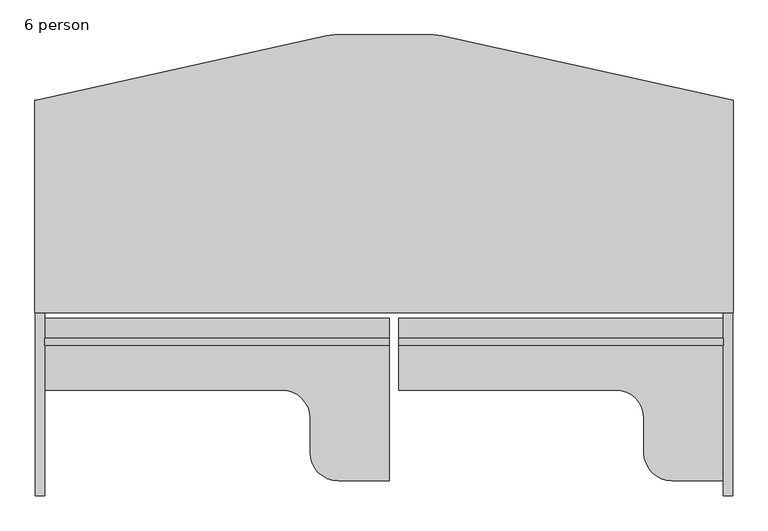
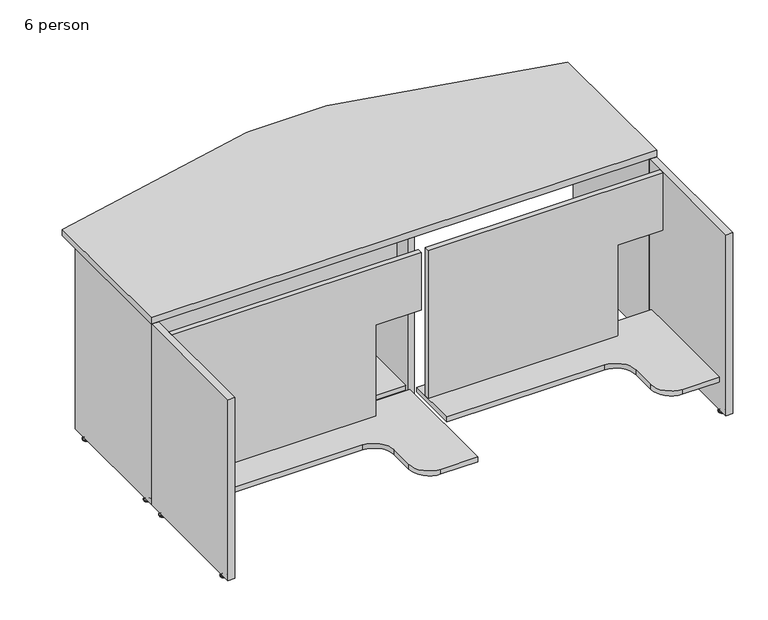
"""IFC4 building model written with IfcOpenShell, lengths in millimetres: furniture geometry, Nova Solutions - Collaboration Table - Boat_4-6 person : 6 person."""

from ifc_helpers import new_model, si_unit, point, frame, frame_2d, origin, place, context, project, spatial, polyline, circle_curve, ellipse_curve, trimmed, segment, composite_curve, outline, extrude, source, transform, mapped, element, save
from ifc_brep_helpers import plane_surface, cylinder_surface, revolved_surface, advanced_brep


def furniture_6_person_dfd8cc7e(model_context):
    return source(origin(), model_context, "Body", "SolidModel", [
        advanced_brep(
        [(916.6776506, 50.4140625, 11.1125), (910.0, 50.4140625, 11.1125), (903.3223494, 50.4140625, 11.1125), (916.6776506, 50.4140625, 9.525), (903.3223494, 50.4140625, 9.525), (921.8855135, 50.4140625, 4.7748687), (898.1144865, 50.4140625, 4.7748687), (922.7466506, 50.4140625, 3.989419), (897.2533494, 50.4140625, 3.989419), (922.7466506, 50.4140625, 3.175), (897.2533494, 50.4140625, 3.175), (921.8959119, 50.4140625, 0.0), (898.1040881, 50.4140625, 0.0), (910.0, 50.4140625, 0.0)],
        [
            (0, 1),
            (1, 2),
            (2, 0, circle_curve(frame((910.0, 50.4140625, 11.1125), z_axis=(0.0, 0.0, 1.0), x_axis=(-1.0, 0.0, 0.0)), 6.6776506)),
            (0, 2, circle_curve(frame((910.0, 50.4140625, 11.1125), z_axis=(0.0, 0.0, 1.0), x_axis=(-1.0, 0.0, 0.0)), 6.6776506)),
            (3, 0),
            (2, 4),
            (4, 3, circle_curve(frame((910.0, 50.4140625, 9.525), z_axis=(0.0, 0.0, 1.0), x_axis=(-1.0, 0.0, 0.0)), 6.6776506)),
            (3, 4, circle_curve(frame((910.0, 50.4140625, 9.525), z_axis=(0.0, 0.0, 1.0), x_axis=(-1.0, 0.0, 0.0)), 6.6776506)),
            (5, 3, circle_curve(frame((922.9320627, 50.4140625, 11.1521822), z_axis=(0.0, 1.0, 0.0), x_axis=(-1.0, 0.0, 0.0)), 6.462615)),
            (4, 6, circle_curve(frame((897.0679373, 50.4140625, 11.1521822), z_axis=(0.0, 1.0, 0.0), x_axis=(1.0, 0.0, 0.0)), 6.462615)),
            (6, 5, circle_curve(frame((910.0, 50.4140625, 4.7748687), z_axis=(0.0, 0.0, 1.0), x_axis=(-1.0, 0.0, 0.0)), 11.8855135)),
            (5, 6, circle_curve(frame((910.0, 50.4140625, 4.7748687), z_axis=(0.0, 0.0, 1.0), x_axis=(-1.0, 0.0, 0.0)), 11.8855135)),
            (7, 5, circle_curve(frame((921.7124632, 50.4140625, 3.7203591), z_axis=(0.0, -1.0, 0.0), x_axis=(-1.0, 0.0, 0.0)), 1.0686145)),
            (6, 8, circle_curve(frame((898.2875368, 50.4140625, 3.7203591), z_axis=(0.0, -1.0, 0.0), x_axis=(1.0, 0.0, 0.0)), 1.0686145)),
            (8, 7, circle_curve(frame((910.0, 50.4140625, 3.989419), z_axis=(0.0, 0.0, 1.0), x_axis=(-1.0, 0.0, 0.0)), 12.7466506)),
            (7, 8, circle_curve(frame((910.0, 50.4140625, 3.989419), z_axis=(0.0, 0.0, 1.0), x_axis=(-1.0, 0.0, 0.0)), 12.7466506)),
            (9, 7),
            (8, 10),
            (10, 9, circle_curve(frame((910.0, 50.4140625, 3.175), z_axis=(0.0, 0.0, 1.0), x_axis=(-1.0, 0.0, 0.0)), 12.7466506)),
            (9, 10, circle_curve(frame((910.0, 50.4140625, 3.175), z_axis=(0.0, 0.0, 1.0), x_axis=(-1.0, 0.0, 0.0)), 12.7466506)),
            (11, 9),
            (10, 12),
            (12, 11, circle_curve(frame((910.0, 50.4140625, 0.0), z_axis=(0.0, 0.0, 1.0), x_axis=(-1.0, 0.0, 0.0)), 11.8959119)),
            (11, 12, circle_curve(frame((910.0, 50.4140625, 0.0), z_axis=(0.0, 0.0, 1.0), x_axis=(-1.0, 0.0, 0.0)), 11.8959119)),
            (13, 11),
            (12, 13),
        ],
        [
            plane_surface(frame((910.0, 50.4140625, 11.1125), z_axis=(0.0, 0.0, 1.0), x_axis=(-1.0, 0.0, 0.0))),
            cylinder_surface(frame((910.0, 50.4140625, 43.2095994), z_axis=(0.0, 0.0, -1.0), x_axis=(-1.0, 0.0, 0.0)), 6.6776506),
            revolved_surface(trimmed(ellipse_curve(frame((897.0679373, 50.4140625, 11.1521822), z_axis=(0.0, 1.0, 0.0), x_axis=(1.0, 0.0, 0.0)), 6.462615, 6.462615), [point((903.3223494, 50.4140625, 9.525))], [point((898.1144865, 50.4140625, 4.7748687))], True, "CARTESIAN"), (910.0, 50.4140625, 43.2095994), (0.0, 0.0, -1.0)),
            revolved_surface(trimmed(ellipse_curve(frame((898.2875368, 50.4140625, 3.7203591), z_axis=(0.0, -1.0, 0.0), x_axis=(1.0, 0.0, 0.0)), 1.0686145, 1.0686145), [point((898.1144865, 50.4140625, 4.7748687))], [point((897.2533494, 50.4140625, 3.989419))], True, "CARTESIAN"), (910.0, 50.4140625, 43.2095994), (0.0, 0.0, -1.0)),
            cylinder_surface(frame((910.0, 50.4140625, 43.2095994), z_axis=(0.0, 0.0, -1.0), x_axis=(-1.0, 0.0, 0.0)), 12.7466506),
            revolved_surface(polyline([(897.2533494, 50.4140625, 3.175), (898.1040881, 50.4140625, 0.0)]), (910.0, 50.4140625, 43.2095994), (0.0, 0.0, -1.0)),
            plane_surface(frame((910.0, 50.4140625, 0.0), z_axis=(0.0, 0.0, -1.0), x_axis=(-1.0, 0.0, 0.0))),
        ],
        [
            (0, [[1, 2, 3]]),
            (0, [[-2, -1, 4]]),
            (1, [[5, -3, 6, 7]]),
            (1, [[-6, -4, -5, 8]]),
            (2, [[9, -7, 10, 11]]),
            (2, [[-10, -8, -9, 12]]),
            (3, [[13, -11, 14, 15]]),
            (3, [[-14, -12, -13, 16]]),
            (4, [[17, -15, 18, 19]]),
            (4, [[-18, -16, -17, 20]]),
            (5, [[21, -19, 22, 23]]),
            (5, [[-22, -20, -21, 24]]),
            (6, [[25, -23, 26]]),
            (6, [[-26, -24, -25]]),
        ],
    ),
        extrude(outline(polyline([(922.85, 1.4), (897.15, 1.4), (897.15, 498.0), (922.85, 498.0), (922.85, 1.4)])), frame((0.0, 0.0, 15.6), z_axis=(0.0, 0.0, 1.0), x_axis=(1.0, 0.0, 0.0)), (0.0, 0.0, 1.0), 720.7),
        extrude(outline(polyline([(145.5, -952.15), (145.5, -183.85), (507.4, -183.85), (507.4, -12.85), (736.3, -12.85), (736.3, -952.15), (145.5, -952.15)])), frame((0.0, 69.4, 0.0), z_axis=(0.0, 1.0, 0.0), x_axis=(0.0, 0.0, 1.0)), (0.0, 0.0, 1.0), 19.2),
        extrude(outline(composite_curve([segment(polyline([(-952.15, 14.1), (-952.15, 210.4), (-305.05, 210.4)]), True, "CONTINUOUS"), segment(trimmed(circle_curve(frame_2d((-305.05, 286.6)), 76.2), [point((-305.05, 210.4))], [point((-228.85, 286.6))], True, "CARTESIAN"), True, "CONTINUOUS"), segment(polyline([(-228.85, 286.6), (-228.85, 381.0625)]), True, "CONTINUOUS"), segment(trimmed(circle_curve(frame_2d((-152.65, 381.0625)), 76.2), [point((-228.85, 381.0625))], [point((-152.65, 457.2625))], False, "CARTESIAN"), True, "CONTINUOUS"), segment(polyline([(-152.65, 457.2625), (-12.85, 457.2625), (-12.85, 14.1), (-952.15, 14.1)]), True, "CONTINUOUS")], self_intersect=False)), frame((0.0, 0.0, 126.3), z_axis=(0.0, 0.0, 1.0), x_axis=(1.0, 0.0, 0.0)), (0.0, 0.0, 1.0), 19.2),
        advanced_brep(
        [(-971.6776506, 448.9859375, 11.1125), (-958.3223494, 448.9859375, 11.1125), (-965.0, 448.9859375, 11.1125), (-971.6776506, 448.9859375, 9.525), (-958.3223494, 448.9859375, 9.525), (-976.8855135, 448.9859375, 4.7748687), (-953.1144865, 448.9859375, 4.7748687), (-977.7466506, 448.9859375, 3.989419), (-952.2533494, 448.9859375, 3.989419), (-977.7466506, 448.9859375, 3.175), (-952.2533494, 448.9859375, 3.175), (-976.8959119, 448.9859375, 0.0), (-953.1040881, 448.9859375, 0.0), (-965.0, 448.9859375, 0.0)],
        [
            (0, 1, circle_curve(frame((-965.0, 448.9859375, 11.1125), z_axis=(0.0, 0.0, 1.0), x_axis=(1.0, 0.0, 0.0)), 6.6776506)),
            (1, 2),
            (2, 0),
            (1, 0, circle_curve(frame((-965.0, 448.9859375, 11.1125), z_axis=(0.0, 0.0, 1.0), x_axis=(1.0, 0.0, 0.0)), 6.6776506)),
            (3, 4, circle_curve(frame((-965.0, 448.9859375, 9.525), z_axis=(0.0, 0.0, 1.0), x_axis=(1.0, 0.0, 0.0)), 6.6776506)),
            (4, 1),
            (0, 3),
            (4, 3, circle_curve(frame((-965.0, 448.9859375, 9.525), z_axis=(0.0, 0.0, 1.0), x_axis=(1.0, 0.0, 0.0)), 6.6776506)),
            (5, 6, circle_curve(frame((-965.0, 448.9859375, 4.7748687), z_axis=(0.0, 0.0, 1.0), x_axis=(1.0, 0.0, 0.0)), 11.8855135)),
            (6, 4, circle_curve(frame((-952.0679373, 448.9859375, 11.1521822), z_axis=(0.0, 1.0, 0.0), x_axis=(-1.0, 0.0, 0.0)), 6.462615)),
            (3, 5, circle_curve(frame((-977.9320627, 448.9859375, 11.1521822), z_axis=(0.0, 1.0, 0.0), x_axis=(1.0, 0.0, 0.0)), 6.462615)),
            (6, 5, circle_curve(frame((-965.0, 448.9859375, 4.7748687), z_axis=(0.0, 0.0, 1.0), x_axis=(1.0, 0.0, 0.0)), 11.8855135)),
            (7, 8, circle_curve(frame((-965.0, 448.9859375, 3.989419), z_axis=(0.0, 0.0, 1.0), x_axis=(1.0, 0.0, 0.0)), 12.7466506)),
            (8, 6, circle_curve(frame((-953.2875368, 448.9859375, 3.7203591), z_axis=(0.0, -1.0, 0.0), x_axis=(-1.0, 0.0, 0.0)), 1.0686145)),
            (5, 7, circle_curve(frame((-976.7124632, 448.9859375, 3.7203591), z_axis=(0.0, -1.0, 0.0), x_axis=(1.0, 0.0, 0.0)), 1.0686145)),
            (8, 7, circle_curve(frame((-965.0, 448.9859375, 3.989419), z_axis=(0.0, 0.0, 1.0), x_axis=(1.0, 0.0, 0.0)), 12.7466506)),
            (9, 10, circle_curve(frame((-965.0, 448.9859375, 3.175), z_axis=(0.0, 0.0, 1.0), x_axis=(1.0, 0.0, 0.0)), 12.7466506)),
            (10, 8),
            (7, 9),
            (10, 9, circle_curve(frame((-965.0, 448.9859375, 3.175), z_axis=(0.0, 0.0, 1.0), x_axis=(1.0, 0.0, 0.0)), 12.7466506)),
            (11, 12, circle_curve(frame((-965.0, 448.9859375, 0.0), z_axis=(0.0, 0.0, 1.0), x_axis=(1.0, 0.0, 0.0)), 11.8959119)),
            (12, 10),
            (9, 11),
            (12, 11, circle_curve(frame((-965.0, 448.9859375, 0.0), z_axis=(0.0, 0.0, 1.0), x_axis=(1.0, 0.0, 0.0)), 11.8959119)),
            (13, 12),
            (11, 13),
        ],
        [
            plane_surface(frame((-965.0, 448.9859375, 11.1125), z_axis=(0.0, 0.0, 1.0), x_axis=(1.0, 0.0, 0.0))),
            cylinder_surface(frame((-965.0, 448.9859375, 43.2095994), z_axis=(0.0, 0.0, -1.0), x_axis=(1.0, 0.0, 0.0)), 6.6776506),
            revolved_surface(trimmed(ellipse_curve(frame((-952.0679373, 448.9859375, 11.1521822), z_axis=(0.0, -1.0, 0.0), x_axis=(-1.0, 0.0, 0.0)), 6.462615, 6.462615), [point((-958.3223494, 448.9859375, 9.525))], [point((-953.1144865, 448.9859375, 4.7748687))], True, "CARTESIAN"), (-965.0, 448.9859375, 43.2095994), (0.0, 0.0, -1.0)),
            revolved_surface(trimmed(ellipse_curve(frame((-953.2875368, 448.9859375, 3.7203591), z_axis=(0.0, 1.0, 0.0), x_axis=(-1.0, 0.0, 0.0)), 1.0686145, 1.0686145), [point((-953.1144865, 448.9859375, 4.7748687))], [point((-952.2533494, 448.9859375, 3.989419))], True, "CARTESIAN"), (-965.0, 448.9859375, 43.2095994), (0.0, 0.0, -1.0)),
            cylinder_surface(frame((-965.0, 448.9859375, 43.2095994), z_axis=(0.0, 0.0, -1.0), x_axis=(1.0, 0.0, 0.0)), 12.7466506),
            revolved_surface(polyline([(-952.2533494, 448.9859375, 3.175), (-953.1040881, 448.9859375, 0.0)]), (-965.0, 448.9859375, 43.2095994), (0.0, 0.0, -1.0)),
            plane_surface(frame((-965.0, 448.9859375, 0.0), z_axis=(0.0, 0.0, -1.0), x_axis=(1.0, 0.0, 0.0))),
        ],
        [
            (0, [[1, 2, 3]]),
            (0, [[4, -3, -2]]),
            (1, [[5, 6, -1, 7]]),
            (1, [[8, -7, -4, -6]]),
            (2, [[9, 10, -5, 11]]),
            (2, [[12, -11, -8, -10]]),
            (3, [[13, 14, -9, 15]]),
            (3, [[16, -15, -12, -14]]),
            (4, [[17, 18, -13, 19]]),
            (4, [[20, -19, -16, -18]]),
            (5, [[21, 22, -17, 23]]),
            (5, [[24, -23, -20, -22]]),
            (6, [[25, -21, 26]]),
            (6, [[-26, -24, -25]]),
        ],
    ),
        advanced_brep(
        [(-971.6776506, 50.4140625, 11.1125), (-958.3223494, 50.4140625, 11.1125), (-965.0, 50.4140625, 11.1125), (-971.6776506, 50.4140625, 9.525), (-958.3223494, 50.4140625, 9.525), (-976.8855135, 50.4140625, 4.7748687), (-953.1144865, 50.4140625, 4.7748687), (-977.7466506, 50.4140625, 3.989419), (-952.2533494, 50.4140625, 3.989419), (-977.7466506, 50.4140625, 3.175), (-952.2533494, 50.4140625, 3.175), (-976.8959119, 50.4140625, 0.0), (-953.1040881, 50.4140625, 0.0), (-965.0, 50.4140625, 0.0)],
        [
            (0, 1, circle_curve(frame((-965.0, 50.4140625, 11.1125), z_axis=(0.0, 0.0, 1.0), x_axis=(1.0, 0.0, 0.0)), 6.6776506)),
            (1, 2),
            (2, 0),
            (1, 0, circle_curve(frame((-965.0, 50.4140625, 11.1125), z_axis=(0.0, 0.0, 1.0), x_axis=(1.0, 0.0, 0.0)), 6.6776506)),
            (3, 4, circle_curve(frame((-965.0, 50.4140625, 9.525), z_axis=(0.0, 0.0, 1.0), x_axis=(1.0, 0.0, 0.0)), 6.6776506)),
            (4, 1),
            (0, 3),
            (4, 3, circle_curve(frame((-965.0, 50.4140625, 9.525), z_axis=(0.0, 0.0, 1.0), x_axis=(1.0, 0.0, 0.0)), 6.6776506)),
            (5, 6, circle_curve(frame((-965.0, 50.4140625, 4.7748687), z_axis=(0.0, 0.0, 1.0), x_axis=(1.0, 0.0, 0.0)), 11.8855135)),
            (6, 4, circle_curve(frame((-952.0679373, 50.4140625, 11.1521822), z_axis=(0.0, 1.0, 0.0), x_axis=(-1.0, 0.0, 0.0)), 6.462615)),
            (3, 5, circle_curve(frame((-977.9320627, 50.4140625, 11.1521822), z_axis=(0.0, 1.0, 0.0), x_axis=(1.0, 0.0, 0.0)), 6.462615)),
            (6, 5, circle_curve(frame((-965.0, 50.4140625, 4.7748687), z_axis=(0.0, 0.0, 1.0), x_axis=(1.0, 0.0, 0.0)), 11.8855135)),
            (7, 8, circle_curve(frame((-965.0, 50.4140625, 3.989419), z_axis=(0.0, 0.0, 1.0), x_axis=(1.0, 0.0, 0.0)), 12.7466506)),
            (8, 6, circle_curve(frame((-953.2875368, 50.4140625, 3.7203591), z_axis=(0.0, -1.0, 0.0), x_axis=(-1.0, 0.0, 0.0)), 1.0686145)),
            (5, 7, circle_curve(frame((-976.7124632, 50.4140625, 3.7203591), z_axis=(0.0, -1.0, 0.0), x_axis=(1.0, 0.0, 0.0)), 1.0686145)),
            (8, 7, circle_curve(frame((-965.0, 50.4140625, 3.989419), z_axis=(0.0, 0.0, 1.0), x_axis=(1.0, 0.0, 0.0)), 12.7466506)),
            (9, 10, circle_curve(frame((-965.0, 50.4140625, 3.175), z_axis=(0.0, 0.0, 1.0), x_axis=(1.0, 0.0, 0.0)), 12.7466506)),
            (10, 8),
            (7, 9),
            (10, 9, circle_curve(frame((-965.0, 50.4140625, 3.175), z_axis=(0.0, 0.0, 1.0), x_axis=(1.0, 0.0, 0.0)), 12.7466506)),
            (11, 12, circle_curve(frame((-965.0, 50.4140625, 0.0), z_axis=(0.0, 0.0, 1.0), x_axis=(1.0, 0.0, 0.0)), 11.8959119)),
            (12, 10),
            (9, 11),
            (12, 11, circle_curve(frame((-965.0, 50.4140625, 0.0), z_axis=(0.0, 0.0, 1.0), x_axis=(1.0, 0.0, 0.0)), 11.8959119)),
            (13, 12),
            (11, 13),
        ],
        [
            plane_surface(frame((-965.0, 50.4140625, 11.1125), z_axis=(0.0, 0.0, 1.0), x_axis=(1.0, 0.0, 0.0))),
            cylinder_surface(frame((-965.0, 50.4140625, 43.2095994), z_axis=(0.0, 0.0, -1.0), x_axis=(1.0, 0.0, 0.0)), 6.6776506),
            revolved_surface(trimmed(ellipse_curve(frame((-952.0679373, 50.4140625, 11.1521822), z_axis=(0.0, -1.0, 0.0), x_axis=(-1.0, 0.0, 0.0)), 6.462615, 6.462615), [point((-958.3223494, 50.4140625, 9.525))], [point((-953.1144865, 50.4140625, 4.7748687))], True, "CARTESIAN"), (-965.0, 50.4140625, 43.2095994), (0.0, 0.0, -1.0)),
            revolved_surface(trimmed(ellipse_curve(frame((-953.2875368, 50.4140625, 3.7203591), z_axis=(0.0, 1.0, 0.0), x_axis=(-1.0, 0.0, 0.0)), 1.0686145, 1.0686145), [point((-953.1144865, 50.4140625, 4.7748687))], [point((-952.2533494, 50.4140625, 3.989419))], True, "CARTESIAN"), (-965.0, 50.4140625, 43.2095994), (0.0, 0.0, -1.0)),
            cylinder_surface(frame((-965.0, 50.4140625, 43.2095994), z_axis=(0.0, 0.0, -1.0), x_axis=(1.0, 0.0, 0.0)), 12.7466506),
            revolved_surface(polyline([(-952.2533494, 50.4140625, 3.175), (-953.1040881, 50.4140625, 0.0)]), (-965.0, 50.4140625, 43.2095994), (0.0, 0.0, -1.0)),
            plane_surface(frame((-965.0, 50.4140625, 0.0), z_axis=(0.0, 0.0, -1.0), x_axis=(1.0, 0.0, 0.0))),
        ],
        [
            (0, [[1, 2, 3]]),
            (0, [[4, -3, -2]]),
            (1, [[5, 6, -1, 7]]),
            (1, [[8, -7, -4, -6]]),
            (2, [[9, 10, -5, 11]]),
            (2, [[12, -11, -8, -10]]),
            (3, [[13, 14, -9, 15]]),
            (3, [[16, -15, -12, -14]]),
            (4, [[17, 18, -13, 19]]),
            (4, [[20, -19, -16, -18]]),
            (5, [[21, 22, -17, 23]]),
            (5, [[24, -23, -20, -22]]),
            (6, [[25, -21, 26]]),
            (6, [[-26, -24, -25]]),
        ],
    ),
        extrude(outline(polyline([(-977.85, 1.4), (-977.85, 498.0), (-952.15, 498.0), (-952.15, 1.4), (-977.85, 1.4)])), frame((0.0, 0.0, 15.6), z_axis=(0.0, 0.0, 1.0), x_axis=(1.0, 0.0, 0.0)), (0.0, 0.0, 1.0), 720.7),
        advanced_brep(
        [(6.6776506, 631.3859375, 11.1125), (0.0, 631.3859375, 11.1125), (-6.6776506, 631.3859375, 11.1125), (6.6776506, 631.3859375, 9.525), (-6.6776506, 631.3859375, 9.525), (11.8855135, 631.3859375, 4.7748687), (-11.8855135, 631.3859375, 4.7748687), (12.7466506, 631.3859375, 3.989419), (-12.7466506, 631.3859375, 3.989419), (12.7466506, 631.3859375, 3.175), (-12.7466506, 631.3859375, 3.175), (11.8959119, 631.3859375, 0.0), (-11.8959119, 631.3859375, 0.0), (0.0, 631.3859375, 0.0)],
        [
            (0, 1),
            (1, 2),
            (2, 0, circle_curve(frame((0.0, 631.3859375, 11.1125), z_axis=(0.0, 0.0, 1.0), x_axis=(-1.0, 0.0, 0.0)), 6.6776506)),
            (0, 2, circle_curve(frame((0.0, 631.3859375, 11.1125), z_axis=(0.0, 0.0, 1.0), x_axis=(-1.0, 0.0, 0.0)), 6.6776506)),
            (3, 0),
            (2, 4),
            (4, 3, circle_curve(frame((0.0, 631.3859375, 9.525), z_axis=(0.0, 0.0, 1.0), x_axis=(-1.0, 0.0, 0.0)), 6.6776506)),
            (3, 4, circle_curve(frame((0.0, 631.3859375, 9.525), z_axis=(0.0, 0.0, 1.0), x_axis=(-1.0, 0.0, 0.0)), 6.6776506)),
            (5, 3, circle_curve(frame((12.9320627, 631.3859375, 11.1521822), z_axis=(0.0, 1.0, 0.0), x_axis=(-1.0, 0.0, 0.0)), 6.462615)),
            (4, 6, circle_curve(frame((-12.9320627, 631.3859375, 11.1521822), z_axis=(0.0, 1.0, 0.0), x_axis=(1.0, 0.0, 0.0)), 6.462615)),
            (6, 5, circle_curve(frame((0.0, 631.3859375, 4.7748687), z_axis=(0.0, 0.0, 1.0), x_axis=(-1.0, 0.0, 0.0)), 11.8855135)),
            (5, 6, circle_curve(frame((0.0, 631.3859375, 4.7748687), z_axis=(0.0, 0.0, 1.0), x_axis=(-1.0, 0.0, 0.0)), 11.8855135)),
            (7, 5, circle_curve(frame((11.7124632, 631.3859375, 3.7203591), z_axis=(0.0, -1.0, 0.0), x_axis=(-1.0, 0.0, 0.0)), 1.0686145)),
            (6, 8, circle_curve(frame((-11.7124632, 631.3859375, 3.7203591), z_axis=(0.0, -1.0, 0.0), x_axis=(1.0, 0.0, 0.0)), 1.0686145)),
            (8, 7, circle_curve(frame((0.0, 631.3859375, 3.989419), z_axis=(0.0, 0.0, 1.0), x_axis=(-1.0, 0.0, 0.0)), 12.7466506)),
            (7, 8, circle_curve(frame((0.0, 631.3859375, 3.989419), z_axis=(0.0, 0.0, 1.0), x_axis=(-1.0, 0.0, 0.0)), 12.7466506)),
            (9, 7),
            (8, 10),
            (10, 9, circle_curve(frame((0.0, 631.3859375, 3.175), z_axis=(0.0, 0.0, 1.0), x_axis=(-1.0, 0.0, 0.0)), 12.7466506)),
            (9, 10, circle_curve(frame((0.0, 631.3859375, 3.175), z_axis=(0.0, 0.0, 1.0), x_axis=(-1.0, 0.0, 0.0)), 12.7466506)),
            (11, 9),
            (10, 12),
            (12, 11, circle_curve(frame((0.0, 631.3859375, 0.0), z_axis=(0.0, 0.0, 1.0), x_axis=(-1.0, 0.0, 0.0)), 11.8959119)),
            (11, 12, circle_curve(frame((0.0, 631.3859375, 0.0), z_axis=(0.0, 0.0, 1.0), x_axis=(-1.0, 0.0, 0.0)), 11.8959119)),
            (13, 11),
            (12, 13),
        ],
        [
            plane_surface(frame((0.0, 631.3859375, 11.1125), z_axis=(0.0, 0.0, 1.0), x_axis=(-1.0, 0.0, 0.0))),
            cylinder_surface(frame((0.0, 631.3859375, 43.2095994), z_axis=(0.0, 0.0, -1.0), x_axis=(-1.0, 0.0, 0.0)), 6.6776506),
            revolved_surface(trimmed(ellipse_curve(frame((-12.9320627, 631.3859375, 11.1521822), z_axis=(0.0, 1.0, 0.0), x_axis=(1.0, 0.0, 0.0)), 6.462615, 6.462615), [point((-6.6776506, 631.3859375, 9.525))], [point((-11.8855135, 631.3859375, 4.7748687))], True, "CARTESIAN"), (0.0, 631.3859375, 43.2095994), (0.0, 0.0, -1.0)),
            revolved_surface(trimmed(ellipse_curve(frame((-11.7124632, 631.3859375, 3.7203591), z_axis=(0.0, -1.0, 0.0), x_axis=(1.0, 0.0, 0.0)), 1.0686145, 1.0686145), [point((-11.8855135, 631.3859375, 4.7748687))], [point((-12.7466506, 631.3859375, 3.989419))], True, "CARTESIAN"), (0.0, 631.3859375, 43.2095994), (0.0, 0.0, -1.0)),
            cylinder_surface(frame((0.0, 631.3859375, 43.2095994), z_axis=(0.0, 0.0, -1.0), x_axis=(-1.0, 0.0, 0.0)), 12.7466506),
            revolved_surface(polyline([(-12.7466506, 631.3859375, 3.175), (-11.8959119, 631.3859375, 0.0)]), (0.0, 631.3859375, 43.2095994), (0.0, 0.0, -1.0)),
            plane_surface(frame((0.0, 631.3859375, 0.0), z_axis=(0.0, 0.0, -1.0), x_axis=(-1.0, 0.0, 0.0))),
        ],
        [
            (0, [[1, 2, 3]]),
            (0, [[-2, -1, 4]]),
            (1, [[5, -3, 6, 7]]),
            (1, [[-6, -4, -5, 8]]),
            (2, [[9, -7, 10, 11]]),
            (2, [[-10, -8, -9, 12]]),
            (3, [[13, -11, 14, 15]]),
            (3, [[-14, -12, -13, 16]]),
            (4, [[17, -15, 18, 19]]),
            (4, [[-18, -16, -17, 20]]),
            (5, [[21, -19, 22, 23]]),
            (5, [[-22, -20, -21, 24]]),
            (6, [[25, -23, 26]]),
            (6, [[-26, -24, -25]]),
        ],
    ),
        advanced_brep(
        [(6.6776506, 50.4140625, 11.1125), (0.0, 50.4140625, 11.1125), (-6.6776506, 50.4140625, 11.1125), (6.6776506, 50.4140625, 9.525), (-6.6776506, 50.4140625, 9.525), (11.8855135, 50.4140625, 4.7748687), (-11.8855135, 50.4140625, 4.7748687), (12.7466506, 50.4140625, 3.989419), (-12.7466506, 50.4140625, 3.989419), (12.7466506, 50.4140625, 3.175), (-12.7466506, 50.4140625, 3.175), (11.8959119, 50.4140625, 0.0), (-11.8959119, 50.4140625, 0.0), (0.0, 50.4140625, 0.0)],
        [
            (0, 1),
            (1, 2),
            (2, 0, circle_curve(frame((0.0, 50.4140625, 11.1125), z_axis=(0.0, 0.0, 1.0), x_axis=(-1.0, 0.0, 0.0)), 6.6776506)),
            (0, 2, circle_curve(frame((0.0, 50.4140625, 11.1125), z_axis=(0.0, 0.0, 1.0), x_axis=(-1.0, 0.0, 0.0)), 6.6776506)),
            (3, 0),
            (2, 4),
            (4, 3, circle_curve(frame((0.0, 50.4140625, 9.525), z_axis=(0.0, 0.0, 1.0), x_axis=(-1.0, 0.0, 0.0)), 6.6776506)),
            (3, 4, circle_curve(frame((0.0, 50.4140625, 9.525), z_axis=(0.0, 0.0, 1.0), x_axis=(-1.0, 0.0, 0.0)), 6.6776506)),
            (5, 3, circle_curve(frame((12.9320627, 50.4140625, 11.1521822), z_axis=(0.0, 1.0, 0.0), x_axis=(-1.0, 0.0, 0.0)), 6.462615)),
            (4, 6, circle_curve(frame((-12.9320627, 50.4140625, 11.1521822), z_axis=(0.0, 1.0, 0.0), x_axis=(1.0, 0.0, 0.0)), 6.462615)),
            (6, 5, circle_curve(frame((0.0, 50.4140625, 4.7748687), z_axis=(0.0, 0.0, 1.0), x_axis=(-1.0, 0.0, 0.0)), 11.8855135)),
            (5, 6, circle_curve(frame((0.0, 50.4140625, 4.7748687), z_axis=(0.0, 0.0, 1.0), x_axis=(-1.0, 0.0, 0.0)), 11.8855135)),
            (7, 5, circle_curve(frame((11.7124632, 50.4140625, 3.7203591), z_axis=(0.0, -1.0, 0.0), x_axis=(-1.0, 0.0, 0.0)), 1.0686145)),
            (6, 8, circle_curve(frame((-11.7124632, 50.4140625, 3.7203591), z_axis=(0.0, -1.0, 0.0), x_axis=(1.0, 0.0, 0.0)), 1.0686145)),
            (8, 7, circle_curve(frame((0.0, 50.4140625, 3.989419), z_axis=(0.0, 0.0, 1.0), x_axis=(-1.0, 0.0, 0.0)), 12.7466506)),
            (7, 8, circle_curve(frame((0.0, 50.4140625, 3.989419), z_axis=(0.0, 0.0, 1.0), x_axis=(-1.0, 0.0, 0.0)), 12.7466506)),
            (9, 7),
            (8, 10),
            (10, 9, circle_curve(frame((0.0, 50.4140625, 3.175), z_axis=(0.0, 0.0, 1.0), x_axis=(-1.0, 0.0, 0.0)), 12.7466506)),
            (9, 10, circle_curve(frame((0.0, 50.4140625, 3.175), z_axis=(0.0, 0.0, 1.0), x_axis=(-1.0, 0.0, 0.0)), 12.7466506)),
            (11, 9),
            (10, 12),
            (12, 11, circle_curve(frame((0.0, 50.4140625, 0.0), z_axis=(0.0, 0.0, 1.0), x_axis=(-1.0, 0.0, 0.0)), 11.8959119)),
            (11, 12, circle_curve(frame((0.0, 50.4140625, 0.0), z_axis=(0.0, 0.0, 1.0), x_axis=(-1.0, 0.0, 0.0)), 11.8959119)),
            (13, 11),
            (12, 13),
        ],
        [
            plane_surface(frame((0.0, 50.4140625, 11.1125), z_axis=(0.0, 0.0, 1.0), x_axis=(-1.0, 0.0, 0.0))),
            cylinder_surface(frame((0.0, 50.4140625, 43.2095994), z_axis=(0.0, 0.0, -1.0), x_axis=(-1.0, 0.0, 0.0)), 6.6776506),
            revolved_surface(trimmed(ellipse_curve(frame((-12.9320627, 50.4140625, 11.1521822), z_axis=(0.0, 1.0, 0.0), x_axis=(1.0, 0.0, 0.0)), 6.462615, 6.462615), [point((-6.6776506, 50.4140625, 9.525))], [point((-11.8855135, 50.4140625, 4.7748687))], True, "CARTESIAN"), (0.0, 50.4140625, 43.2095994), (0.0, 0.0, -1.0)),
            revolved_surface(trimmed(ellipse_curve(frame((-11.7124632, 50.4140625, 3.7203591), z_axis=(0.0, -1.0, 0.0), x_axis=(1.0, 0.0, 0.0)), 1.0686145, 1.0686145), [point((-11.8855135, 50.4140625, 4.7748687))], [point((-12.7466506, 50.4140625, 3.989419))], True, "CARTESIAN"), (0.0, 50.4140625, 43.2095994), (0.0, 0.0, -1.0)),
            cylinder_surface(frame((0.0, 50.4140625, 43.2095994), z_axis=(0.0, 0.0, -1.0), x_axis=(-1.0, 0.0, 0.0)), 12.7466506),
            revolved_surface(polyline([(-12.7466506, 50.4140625, 3.175), (-11.8959119, 50.4140625, 0.0)]), (0.0, 50.4140625, 43.2095994), (0.0, 0.0, -1.0)),
            plane_surface(frame((0.0, 50.4140625, 0.0), z_axis=(0.0, 0.0, -1.0), x_axis=(-1.0, 0.0, 0.0))),
        ],
        [
            (0, [[1, 2, 3]]),
            (0, [[-2, -1, 4]]),
            (1, [[5, -3, 6, 7]]),
            (1, [[-6, -4, -5, 8]]),
            (2, [[9, -7, 10, 11]]),
            (2, [[-10, -8, -9, 12]]),
            (3, [[13, -11, 14, 15]]),
            (3, [[-14, -12, -13, 16]]),
            (4, [[17, -15, 18, 19]]),
            (4, [[-18, -16, -17, 20]]),
            (5, [[21, -19, 22, 23]]),
            (5, [[-22, -20, -21, 24]]),
            (6, [[25, -23, 26]]),
            (6, [[-26, -24, -25]]),
        ],
    ),
        extrude(outline(polyline([(12.85, 1.4), (-12.85, 1.4), (-12.85, 680.4), (12.85, 680.4), (12.85, 1.4)])), frame((0.0, 0.0, 15.6), z_axis=(0.0, 0.0, 1.0), x_axis=(1.0, 0.0, 0.0)), (0.0, 0.0, 1.0), 720.7),
        extrude(outline(composite_curve([segment(trimmed(circle_curve(frame_2d((-163.1227993, 656.4)), 101.6), [point((-185.1130641, 755.5916743))], [point((-163.1227993, 758.0))], False, "CARTESIAN"), True, "CONTINUOUS"), segment(polyline([(-163.1227993, 758.0), (108.0350272, 758.0)]), True, "CONTINUOUS"), segment(trimmed(circle_curve(frame_2d((108.0350272, 656.4)), 101.6), [point((108.0350272, 758.0))], [point((130.025292, 755.5916743))], False, "CARTESIAN"), True, "CONTINUOUS"), segment(polyline([(130.025292, 755.5916743), (924.25, 579.5162956), (924.25, 0.0), (-979.2498676, 0.0), (-979.2498676, 579.4738112)]), True, "CONTINUOUS"), segment(trimmed(circle_curve(frame_2d((-953.85, 481.1)), 101.6), [point((-979.2498676, 579.4738112))], [point((-975.8402648, 580.2916743))], False, "CARTESIAN"), True, "CONTINUOUS"), segment(polyline([(-975.8402648, 580.2916743), (-185.1130641, 755.5916743)]), True, "CONTINUOUS")], self_intersect=False)), frame((0.0, 0.0, 736.3), z_axis=(0.0, 0.0, 1.0), x_axis=(1.0, 0.0, 0.0)), (0.0, 0.0, 1.0), 25.7),
        extrude(outline(polyline([(145.5, 12.85), (145.5, 726.15), (507.4, 726.15), (507.4, 897.15), (736.3, 897.15), (736.3, 12.85), (145.5, 12.85)])), frame((0.0, -88.6, 0.0), z_axis=(0.0, 1.0, 0.0), x_axis=(0.0, 0.0, 1.0)), (0.0, 0.0, 1.0), 19.2),
        extrude(outline(composite_curve([segment(polyline([(897.15, -457.2625), (757.35, -457.2625)]), True, "CONTINUOUS"), segment(trimmed(circle_curve(frame_2d((757.35, -381.0625)), 76.2), [point((757.35, -457.2625))], [point((681.15, -381.0625))], False, "CARTESIAN"), True, "CONTINUOUS"), segment(polyline([(681.15, -381.0625), (681.15, -286.6)]), True, "CONTINUOUS"), segment(trimmed(circle_curve(frame_2d((604.95, -286.6)), 76.2), [point((681.15, -286.6))], [point((604.95, -210.4))], True, "CARTESIAN"), True, "CONTINUOUS"), segment(polyline([(604.95, -210.4), (12.85, -210.4), (12.85, -14.1), (897.15, -14.1), (897.15, -457.2625)]), True, "CONTINUOUS")], self_intersect=False)), frame((0.0, 0.0, 126.3), z_axis=(0.0, 0.0, 1.0), x_axis=(1.0, 0.0, 0.0)), (0.0, 0.0, 1.0), 19.2),
        advanced_brep(
        [(916.6776506, -448.9859375, 11.1125), (903.3223494, -448.9859375, 11.1125), (910.0, -448.9859375, 11.1125), (916.6776506, -448.9859375, 9.525), (903.3223494, -448.9859375, 9.525), (921.8855135, -448.9859375, 4.7748687), (898.1144865, -448.9859375, 4.7748687), (922.7466506, -448.9859375, 3.989419), (897.2533494, -448.9859375, 3.989419), (922.7466506, -448.9859375, 3.175), (897.2533494, -448.9859375, 3.175), (921.8959119, -448.9859375, 0.0), (898.1040881, -448.9859375, 0.0), (910.0, -448.9859375, 0.0)],
        [
            (0, 1, circle_curve(frame((910.0, -448.9859375, 11.1125), z_axis=(0.0, 0.0, 1.0), x_axis=(-1.0, 0.0, 0.0)), 6.6776506)),
            (1, 2),
            (2, 0),
            (1, 0, circle_curve(frame((910.0, -448.9859375, 11.1125), z_axis=(0.0, 0.0, 1.0), x_axis=(-1.0, 0.0, 0.0)), 6.6776506)),
            (3, 4, circle_curve(frame((910.0, -448.9859375, 9.525), z_axis=(0.0, 0.0, 1.0), x_axis=(-1.0, 0.0, 0.0)), 6.6776506)),
            (4, 1),
            (0, 3),
            (4, 3, circle_curve(frame((910.0, -448.9859375, 9.525), z_axis=(0.0, 0.0, 1.0), x_axis=(-1.0, 0.0, 0.0)), 6.6776506)),
            (5, 6, circle_curve(frame((910.0, -448.9859375, 4.7748687), z_axis=(0.0, 0.0, 1.0), x_axis=(-1.0, 0.0, 0.0)), 11.8855135)),
            (6, 4, circle_curve(frame((897.0679373, -448.9859375, 11.1521822), z_axis=(0.0, -1.0, 0.0), x_axis=(1.0, 0.0, 0.0)), 6.462615)),
            (3, 5, circle_curve(frame((922.9320627, -448.9859375, 11.1521822), z_axis=(0.0, -1.0, 0.0), x_axis=(-1.0, 0.0, 0.0)), 6.462615)),
            (6, 5, circle_curve(frame((910.0, -448.9859375, 4.7748687), z_axis=(0.0, 0.0, 1.0), x_axis=(-1.0, 0.0, 0.0)), 11.8855135)),
            (7, 8, circle_curve(frame((910.0, -448.9859375, 3.989419), z_axis=(0.0, 0.0, 1.0), x_axis=(-1.0, 0.0, 0.0)), 12.7466506)),
            (8, 6, circle_curve(frame((898.2875368, -448.9859375, 3.7203591), z_axis=(0.0, 1.0, 0.0), x_axis=(1.0, 0.0, 0.0)), 1.0686145)),
            (5, 7, circle_curve(frame((921.7124632, -448.9859375, 3.7203591), z_axis=(0.0, 1.0, 0.0), x_axis=(-1.0, 0.0, 0.0)), 1.0686145)),
            (8, 7, circle_curve(frame((910.0, -448.9859375, 3.989419), z_axis=(0.0, 0.0, 1.0), x_axis=(-1.0, 0.0, 0.0)), 12.7466506)),
            (9, 10, circle_curve(frame((910.0, -448.9859375, 3.175), z_axis=(0.0, 0.0, 1.0), x_axis=(-1.0, 0.0, 0.0)), 12.7466506)),
            (10, 8),
            (7, 9),
            (10, 9, circle_curve(frame((910.0, -448.9859375, 3.175), z_axis=(0.0, 0.0, 1.0), x_axis=(-1.0, 0.0, 0.0)), 12.7466506)),
            (11, 12, circle_curve(frame((910.0, -448.9859375, 0.0), z_axis=(0.0, 0.0, 1.0), x_axis=(-1.0, 0.0, 0.0)), 11.8959119)),
            (12, 10),
            (9, 11),
            (12, 11, circle_curve(frame((910.0, -448.9859375, 0.0), z_axis=(0.0, 0.0, 1.0), x_axis=(-1.0, 0.0, 0.0)), 11.8959119)),
            (13, 12),
            (11, 13),
        ],
        [
            plane_surface(frame((910.0, -448.9859375, 11.1125), z_axis=(0.0, 0.0, 1.0), x_axis=(-1.0, 0.0, 0.0))),
            cylinder_surface(frame((910.0, -448.9859375, 43.2095994), z_axis=(0.0, 0.0, -1.0), x_axis=(-1.0, 0.0, 0.0)), 6.6776506),
            revolved_surface(trimmed(ellipse_curve(frame((897.0679373, -448.9859375, 11.1521822), z_axis=(0.0, 1.0, 0.0), x_axis=(1.0, 0.0, 0.0)), 6.462615, 6.462615), [point((903.3223494, -448.9859375, 9.525))], [point((898.1144865, -448.9859375, 4.7748687))], True, "CARTESIAN"), (910.0, -448.9859375, 43.2095994), (0.0, 0.0, -1.0)),
            revolved_surface(trimmed(ellipse_curve(frame((898.2875368, -448.9859375, 3.7203591), z_axis=(0.0, -1.0, 0.0), x_axis=(1.0, 0.0, 0.0)), 1.0686145, 1.0686145), [point((898.1144865, -448.9859375, 4.7748687))], [point((897.2533494, -448.9859375, 3.989419))], True, "CARTESIAN"), (910.0, -448.9859375, 43.2095994), (0.0, 0.0, -1.0)),
            cylinder_surface(frame((910.0, -448.9859375, 43.2095994), z_axis=(0.0, 0.0, -1.0), x_axis=(-1.0, 0.0, 0.0)), 12.7466506),
            revolved_surface(polyline([(897.2533494, -448.9859375, 3.175), (898.1040881, -448.9859375, 0.0)]), (910.0, -448.9859375, 43.2095994), (0.0, 0.0, -1.0)),
            plane_surface(frame((910.0, -448.9859375, 0.0), z_axis=(0.0, 0.0, -1.0), x_axis=(-1.0, 0.0, 0.0))),
        ],
        [
            (0, [[1, 2, 3]]),
            (0, [[4, -3, -2]]),
            (1, [[5, 6, -1, 7]]),
            (1, [[8, -7, -4, -6]]),
            (2, [[9, 10, -5, 11]]),
            (2, [[12, -11, -8, -10]]),
            (3, [[13, 14, -9, 15]]),
            (3, [[16, -15, -12, -14]]),
            (4, [[17, 18, -13, 19]]),
            (4, [[20, -19, -16, -18]]),
            (5, [[21, 22, -17, 23]]),
            (5, [[24, -23, -20, -22]]),
            (6, [[25, -21, 26]]),
            (6, [[-26, -24, -25]]),
        ],
    ),
        advanced_brep(
        [(916.6776506, -50.4140625, 11.1125), (903.3223494, -50.4140625, 11.1125), (910.0, -50.4140625, 11.1125), (916.6776506, -50.4140625, 9.525), (903.3223494, -50.4140625, 9.525), (921.8855135, -50.4140625, 4.7748687), (898.1144865, -50.4140625, 4.7748687), (922.7466506, -50.4140625, 3.989419), (897.2533494, -50.4140625, 3.989419), (922.7466506, -50.4140625, 3.175), (897.2533494, -50.4140625, 3.175), (921.8959119, -50.4140625, 0.0), (898.1040881, -50.4140625, 0.0), (910.0, -50.4140625, 0.0)],
        [
            (0, 1, circle_curve(frame((910.0, -50.4140625, 11.1125), z_axis=(0.0, 0.0, 1.0), x_axis=(-1.0, 0.0, 0.0)), 6.6776506)),
            (1, 2),
            (2, 0),
            (1, 0, circle_curve(frame((910.0, -50.4140625, 11.1125), z_axis=(0.0, 0.0, 1.0), x_axis=(-1.0, 0.0, 0.0)), 6.6776506)),
            (3, 4, circle_curve(frame((910.0, -50.4140625, 9.525), z_axis=(0.0, 0.0, 1.0), x_axis=(-1.0, 0.0, 0.0)), 6.6776506)),
            (4, 1),
            (0, 3),
            (4, 3, circle_curve(frame((910.0, -50.4140625, 9.525), z_axis=(0.0, 0.0, 1.0), x_axis=(-1.0, 0.0, 0.0)), 6.6776506)),
            (5, 6, circle_curve(frame((910.0, -50.4140625, 4.7748687), z_axis=(0.0, 0.0, 1.0), x_axis=(-1.0, 0.0, 0.0)), 11.8855135)),
            (6, 4, circle_curve(frame((897.0679373, -50.4140625, 11.1521822), z_axis=(0.0, -1.0, 0.0), x_axis=(1.0, 0.0, 0.0)), 6.462615)),
            (3, 5, circle_curve(frame((922.9320627, -50.4140625, 11.1521822), z_axis=(0.0, -1.0, 0.0), x_axis=(-1.0, 0.0, 0.0)), 6.462615)),
            (6, 5, circle_curve(frame((910.0, -50.4140625, 4.7748687), z_axis=(0.0, 0.0, 1.0), x_axis=(-1.0, 0.0, 0.0)), 11.8855135)),
            (7, 8, circle_curve(frame((910.0, -50.4140625, 3.989419), z_axis=(0.0, 0.0, 1.0), x_axis=(-1.0, 0.0, 0.0)), 12.7466506)),
            (8, 6, circle_curve(frame((898.2875368, -50.4140625, 3.7203591), z_axis=(0.0, 1.0, 0.0), x_axis=(1.0, 0.0, 0.0)), 1.0686145)),
            (5, 7, circle_curve(frame((921.7124632, -50.4140625, 3.7203591), z_axis=(0.0, 1.0, 0.0), x_axis=(-1.0, 0.0, 0.0)), 1.0686145)),
            (8, 7, circle_curve(frame((910.0, -50.4140625, 3.989419), z_axis=(0.0, 0.0, 1.0), x_axis=(-1.0, 0.0, 0.0)), 12.7466506)),
            (9, 10, circle_curve(frame((910.0, -50.4140625, 3.175), z_axis=(0.0, 0.0, 1.0), x_axis=(-1.0, 0.0, 0.0)), 12.7466506)),
            (10, 8),
            (7, 9),
            (10, 9, circle_curve(frame((910.0, -50.4140625, 3.175), z_axis=(0.0, 0.0, 1.0), x_axis=(-1.0, 0.0, 0.0)), 12.7466506)),
            (11, 12, circle_curve(frame((910.0, -50.4140625, 0.0), z_axis=(0.0, 0.0, 1.0), x_axis=(-1.0, 0.0, 0.0)), 11.8959119)),
            (12, 10),
            (9, 11),
            (12, 11, circle_curve(frame((910.0, -50.4140625, 0.0), z_axis=(0.0, 0.0, 1.0), x_axis=(-1.0, 0.0, 0.0)), 11.8959119)),
            (13, 12),
            (11, 13),
        ],
        [
            plane_surface(frame((910.0, -50.4140625, 11.1125), z_axis=(0.0, 0.0, 1.0), x_axis=(-1.0, 0.0, 0.0))),
            cylinder_surface(frame((910.0, -50.4140625, 43.2095994), z_axis=(0.0, 0.0, -1.0), x_axis=(-1.0, 0.0, 0.0)), 6.6776506),
            revolved_surface(trimmed(ellipse_curve(frame((897.0679373, -50.4140625, 11.1521822), z_axis=(0.0, 1.0, 0.0), x_axis=(1.0, 0.0, 0.0)), 6.462615, 6.462615), [point((903.3223494, -50.4140625, 9.525))], [point((898.1144865, -50.4140625, 4.7748687))], True, "CARTESIAN"), (910.0, -50.4140625, 43.2095994), (0.0, 0.0, -1.0)),
            revolved_surface(trimmed(ellipse_curve(frame((898.2875368, -50.4140625, 3.7203591), z_axis=(0.0, -1.0, 0.0), x_axis=(1.0, 0.0, 0.0)), 1.0686145, 1.0686145), [point((898.1144865, -50.4140625, 4.7748687))], [point((897.2533494, -50.4140625, 3.989419))], True, "CARTESIAN"), (910.0, -50.4140625, 43.2095994), (0.0, 0.0, -1.0)),
            cylinder_surface(frame((910.0, -50.4140625, 43.2095994), z_axis=(0.0, 0.0, -1.0), x_axis=(-1.0, 0.0, 0.0)), 12.7466506),
            revolved_surface(polyline([(897.2533494, -50.4140625, 3.175), (898.1040881, -50.4140625, 0.0)]), (910.0, -50.4140625, 43.2095994), (0.0, 0.0, -1.0)),
            plane_surface(frame((910.0, -50.4140625, 0.0), z_axis=(0.0, 0.0, -1.0), x_axis=(-1.0, 0.0, 0.0))),
        ],
        [
            (0, [[1, 2, 3]]),
            (0, [[4, -3, -2]]),
            (1, [[5, 6, -1, 7]]),
            (1, [[8, -7, -4, -6]]),
            (2, [[9, 10, -5, 11]]),
            (2, [[12, -11, -8, -10]]),
            (3, [[13, 14, -9, 15]]),
            (3, [[16, -15, -12, -14]]),
            (4, [[17, 18, -13, 19]]),
            (4, [[20, -19, -16, -18]]),
            (5, [[21, 22, -17, 23]]),
            (5, [[24, -23, -20, -22]]),
            (6, [[25, -21, 26]]),
            (6, [[-26, -24, -25]]),
        ],
    ),
        extrude(outline(polyline([(922.85, -1.4), (922.85, -498.0), (897.15, -498.0), (897.15, -1.4), (922.85, -1.4)])), frame((0.0, 0.0, 15.6), z_axis=(0.0, 0.0, 1.0), x_axis=(1.0, 0.0, 0.0)), (0.0, 0.0, 1.0), 720.7),
        extrude(outline(polyline([(736.3, -952.15), (145.5, -952.15), (145.5, -183.85), (507.4, -183.85), (507.4, -12.85), (736.3, -12.85), (736.3, -952.15)])), frame((0.0, -88.6, 0.0), z_axis=(0.0, 1.0, 0.0), x_axis=(0.0, 0.0, 1.0)), (0.0, 0.0, 1.0), 19.2),
        extrude(outline(composite_curve([segment(polyline([(-952.15, -14.1), (-12.85, -14.1), (-12.85, -457.2625), (-152.65, -457.2625)]), True, "CONTINUOUS"), segment(trimmed(circle_curve(frame_2d((-152.65, -381.0625)), 76.2), [point((-152.65, -457.2625))], [point((-228.85, -381.0625))], False, "CARTESIAN"), True, "CONTINUOUS"), segment(polyline([(-228.85, -381.0625), (-228.85, -286.6)]), True, "CONTINUOUS"), segment(trimmed(circle_curve(frame_2d((-305.05, -286.6)), 76.2), [point((-228.85, -286.6))], [point((-305.05, -210.4))], True, "CARTESIAN"), True, "CONTINUOUS"), segment(polyline([(-305.05, -210.4), (-952.15, -210.4), (-952.15, -14.1)]), True, "CONTINUOUS")], self_intersect=False)), frame((0.0, 0.0, 126.3), z_axis=(0.0, 0.0, 1.0), x_axis=(1.0, 0.0, 0.0)), (0.0, 0.0, 1.0), 19.2),
        advanced_brep(
        [(-971.6776506, -448.9859375, 11.1125), (-965.0, -448.9859375, 11.1125), (-958.3223494, -448.9859375, 11.1125), (-971.6776506, -448.9859375, 9.525), (-958.3223494, -448.9859375, 9.525), (-976.8855135, -448.9859375, 4.7748687), (-953.1144865, -448.9859375, 4.7748687), (-977.7466506, -448.9859375, 3.989419), (-952.2533494, -448.9859375, 3.989419), (-977.7466506, -448.9859375, 3.175), (-952.2533494, -448.9859375, 3.175), (-976.8959119, -448.9859375, 0.0), (-953.1040881, -448.9859375, 0.0), (-965.0, -448.9859375, 0.0)],
        [
            (0, 1),
            (1, 2),
            (2, 0, circle_curve(frame((-965.0, -448.9859375, 11.1125), z_axis=(0.0, 0.0, 1.0), x_axis=(1.0, 0.0, 0.0)), 6.6776506)),
            (0, 2, circle_curve(frame((-965.0, -448.9859375, 11.1125), z_axis=(0.0, 0.0, 1.0), x_axis=(1.0, 0.0, 0.0)), 6.6776506)),
            (3, 0),
            (2, 4),
            (4, 3, circle_curve(frame((-965.0, -448.9859375, 9.525), z_axis=(0.0, 0.0, 1.0), x_axis=(1.0, 0.0, 0.0)), 6.6776506)),
            (3, 4, circle_curve(frame((-965.0, -448.9859375, 9.525), z_axis=(0.0, 0.0, 1.0), x_axis=(1.0, 0.0, 0.0)), 6.6776506)),
            (5, 3, circle_curve(frame((-977.9320627, -448.9859375, 11.1521822), z_axis=(0.0, -1.0, 0.0), x_axis=(1.0, 0.0, 0.0)), 6.462615)),
            (4, 6, circle_curve(frame((-952.0679373, -448.9859375, 11.1521822), z_axis=(0.0, -1.0, 0.0), x_axis=(-1.0, 0.0, 0.0)), 6.462615)),
            (6, 5, circle_curve(frame((-965.0, -448.9859375, 4.7748687), z_axis=(0.0, 0.0, 1.0), x_axis=(1.0, 0.0, 0.0)), 11.8855135)),
            (5, 6, circle_curve(frame((-965.0, -448.9859375, 4.7748687), z_axis=(0.0, 0.0, 1.0), x_axis=(1.0, 0.0, 0.0)), 11.8855135)),
            (7, 5, circle_curve(frame((-976.7124632, -448.9859375, 3.7203591), z_axis=(0.0, 1.0, 0.0), x_axis=(1.0, 0.0, 0.0)), 1.0686145)),
            (6, 8, circle_curve(frame((-953.2875368, -448.9859375, 3.7203591), z_axis=(0.0, 1.0, 0.0), x_axis=(-1.0, 0.0, 0.0)), 1.0686145)),
            (8, 7, circle_curve(frame((-965.0, -448.9859375, 3.989419), z_axis=(0.0, 0.0, 1.0), x_axis=(1.0, 0.0, 0.0)), 12.7466506)),
            (7, 8, circle_curve(frame((-965.0, -448.9859375, 3.989419), z_axis=(0.0, 0.0, 1.0), x_axis=(1.0, 0.0, 0.0)), 12.7466506)),
            (9, 7),
            (8, 10),
            (10, 9, circle_curve(frame((-965.0, -448.9859375, 3.175), z_axis=(0.0, 0.0, 1.0), x_axis=(1.0, 0.0, 0.0)), 12.7466506)),
            (9, 10, circle_curve(frame((-965.0, -448.9859375, 3.175), z_axis=(0.0, 0.0, 1.0), x_axis=(1.0, 0.0, 0.0)), 12.7466506)),
            (11, 9),
            (10, 12),
            (12, 11, circle_curve(frame((-965.0, -448.9859375, 0.0), z_axis=(0.0, 0.0, 1.0), x_axis=(1.0, 0.0, 0.0)), 11.8959119)),
            (11, 12, circle_curve(frame((-965.0, -448.9859375, 0.0), z_axis=(0.0, 0.0, 1.0), x_axis=(1.0, 0.0, 0.0)), 11.8959119)),
            (13, 11),
            (12, 13),
        ],
        [
            plane_surface(frame((-965.0, -448.9859375, 11.1125), z_axis=(0.0, 0.0, 1.0), x_axis=(1.0, 0.0, 0.0))),
            cylinder_surface(frame((-965.0, -448.9859375, 43.2095994), z_axis=(0.0, 0.0, -1.0), x_axis=(1.0, 0.0, 0.0)), 6.6776506),
            revolved_surface(trimmed(ellipse_curve(frame((-952.0679373, -448.9859375, 11.1521822), z_axis=(0.0, -1.0, 0.0), x_axis=(-1.0, 0.0, 0.0)), 6.462615, 6.462615), [point((-958.3223494, -448.9859375, 9.525))], [point((-953.1144865, -448.9859375, 4.7748687))], True, "CARTESIAN"), (-965.0, -448.9859375, 43.2095994), (0.0, 0.0, -1.0)),
            revolved_surface(trimmed(ellipse_curve(frame((-953.2875368, -448.9859375, 3.7203591), z_axis=(0.0, 1.0, 0.0), x_axis=(-1.0, 0.0, 0.0)), 1.0686145, 1.0686145), [point((-953.1144865, -448.9859375, 4.7748687))], [point((-952.2533494, -448.9859375, 3.989419))], True, "CARTESIAN"), (-965.0, -448.9859375, 43.2095994), (0.0, 0.0, -1.0)),
            cylinder_surface(frame((-965.0, -448.9859375, 43.2095994), z_axis=(0.0, 0.0, -1.0), x_axis=(1.0, 0.0, 0.0)), 12.7466506),
            revolved_surface(polyline([(-952.2533494, -448.9859375, 3.175), (-953.1040881, -448.9859375, 0.0)]), (-965.0, -448.9859375, 43.2095994), (0.0, 0.0, -1.0)),
            plane_surface(frame((-965.0, -448.9859375, 0.0), z_axis=(0.0, 0.0, -1.0), x_axis=(1.0, 0.0, 0.0))),
        ],
        [
            (0, [[1, 2, 3]]),
            (0, [[-2, -1, 4]]),
            (1, [[5, -3, 6, 7]]),
            (1, [[-6, -4, -5, 8]]),
            (2, [[9, -7, 10, 11]]),
            (2, [[-10, -8, -9, 12]]),
            (3, [[13, -11, 14, 15]]),
            (3, [[-14, -12, -13, 16]]),
            (4, [[17, -15, 18, 19]]),
            (4, [[-18, -16, -17, 20]]),
            (5, [[21, -19, 22, 23]]),
            (5, [[-22, -20, -21, 24]]),
            (6, [[25, -23, 26]]),
            (6, [[-26, -24, -25]]),
        ],
    ),
        advanced_brep(
        [(-971.6776506, -50.4140625, 11.1125), (-965.0, -50.4140625, 11.1125), (-958.3223494, -50.4140625, 11.1125), (-971.6776506, -50.4140625, 9.525), (-958.3223494, -50.4140625, 9.525), (-976.8855135, -50.4140625, 4.7748687), (-953.1144865, -50.4140625, 4.7748687), (-977.7466506, -50.4140625, 3.989419), (-952.2533494, -50.4140625, 3.989419), (-977.7466506, -50.4140625, 3.175), (-952.2533494, -50.4140625, 3.175), (-976.8959119, -50.4140625, 0.0), (-953.1040881, -50.4140625, 0.0), (-965.0, -50.4140625, 0.0)],
        [
            (0, 1),
            (1, 2),
            (2, 0, circle_curve(frame((-965.0, -50.4140625, 11.1125), z_axis=(0.0, 0.0, 1.0), x_axis=(1.0, 0.0, 0.0)), 6.6776506)),
            (0, 2, circle_curve(frame((-965.0, -50.4140625, 11.1125), z_axis=(0.0, 0.0, 1.0), x_axis=(1.0, 0.0, 0.0)), 6.6776506)),
            (3, 0),
            (2, 4),
            (4, 3, circle_curve(frame((-965.0, -50.4140625, 9.525), z_axis=(0.0, 0.0, 1.0), x_axis=(1.0, 0.0, 0.0)), 6.6776506)),
            (3, 4, circle_curve(frame((-965.0, -50.4140625, 9.525), z_axis=(0.0, 0.0, 1.0), x_axis=(1.0, 0.0, 0.0)), 6.6776506)),
            (5, 3, circle_curve(frame((-977.9320627, -50.4140625, 11.1521822), z_axis=(0.0, -1.0, 0.0), x_axis=(1.0, 0.0, 0.0)), 6.462615)),
            (4, 6, circle_curve(frame((-952.0679373, -50.4140625, 11.1521822), z_axis=(0.0, -1.0, 0.0), x_axis=(-1.0, 0.0, 0.0)), 6.462615)),
            (6, 5, circle_curve(frame((-965.0, -50.4140625, 4.7748687), z_axis=(0.0, 0.0, 1.0), x_axis=(1.0, 0.0, 0.0)), 11.8855135)),
            (5, 6, circle_curve(frame((-965.0, -50.4140625, 4.7748687), z_axis=(0.0, 0.0, 1.0), x_axis=(1.0, 0.0, 0.0)), 11.8855135)),
            (7, 5, circle_curve(frame((-976.7124632, -50.4140625, 3.7203591), z_axis=(0.0, 1.0, 0.0), x_axis=(1.0, 0.0, 0.0)), 1.0686145)),
            (6, 8, circle_curve(frame((-953.2875368, -50.4140625, 3.7203591), z_axis=(0.0, 1.0, 0.0), x_axis=(-1.0, 0.0, 0.0)), 1.0686145)),
            (8, 7, circle_curve(frame((-965.0, -50.4140625, 3.989419), z_axis=(0.0, 0.0, 1.0), x_axis=(1.0, 0.0, 0.0)), 12.7466506)),
            (7, 8, circle_curve(frame((-965.0, -50.4140625, 3.989419), z_axis=(0.0, 0.0, 1.0), x_axis=(1.0, 0.0, 0.0)), 12.7466506)),
            (9, 7),
            (8, 10),
            (10, 9, circle_curve(frame((-965.0, -50.4140625, 3.175), z_axis=(0.0, 0.0, 1.0), x_axis=(1.0, 0.0, 0.0)), 12.7466506)),
            (9, 10, circle_curve(frame((-965.0, -50.4140625, 3.175), z_axis=(0.0, 0.0, 1.0), x_axis=(1.0, 0.0, 0.0)), 12.7466506)),
            (11, 9),
            (10, 12),
            (12, 11, circle_curve(frame((-965.0, -50.4140625, 0.0), z_axis=(0.0, 0.0, 1.0), x_axis=(1.0, 0.0, 0.0)), 11.8959119)),
            (11, 12, circle_curve(frame((-965.0, -50.4140625, 0.0), z_axis=(0.0, 0.0, 1.0), x_axis=(1.0, 0.0, 0.0)), 11.8959119)),
            (13, 11),
            (12, 13),
        ],
        [
            plane_surface(frame((-965.0, -50.4140625, 11.1125), z_axis=(0.0, 0.0, 1.0), x_axis=(1.0, 0.0, 0.0))),
            cylinder_surface(frame((-965.0, -50.4140625, 43.2095994), z_axis=(0.0, 0.0, -1.0), x_axis=(1.0, 0.0, 0.0)), 6.6776506),
            revolved_surface(trimmed(ellipse_curve(frame((-952.0679373, -50.4140625, 11.1521822), z_axis=(0.0, -1.0, 0.0), x_axis=(-1.0, 0.0, 0.0)), 6.462615, 6.462615), [point((-958.3223494, -50.4140625, 9.525))], [point((-953.1144865, -50.4140625, 4.7748687))], True, "CARTESIAN"), (-965.0, -50.4140625, 43.2095994), (0.0, 0.0, -1.0)),
            revolved_surface(trimmed(ellipse_curve(frame((-953.2875368, -50.4140625, 3.7203591), z_axis=(0.0, 1.0, 0.0), x_axis=(-1.0, 0.0, 0.0)), 1.0686145, 1.0686145), [point((-953.1144865, -50.4140625, 4.7748687))], [point((-952.2533494, -50.4140625, 3.989419))], True, "CARTESIAN"), (-965.0, -50.4140625, 43.2095994), (0.0, 0.0, -1.0)),
            cylinder_surface(frame((-965.0, -50.4140625, 43.2095994), z_axis=(0.0, 0.0, -1.0), x_axis=(1.0, 0.0, 0.0)), 12.7466506),
            revolved_surface(polyline([(-952.2533494, -50.4140625, 3.175), (-953.1040881, -50.4140625, 0.0)]), (-965.0, -50.4140625, 43.2095994), (0.0, 0.0, -1.0)),
            plane_surface(frame((-965.0, -50.4140625, 0.0), z_axis=(0.0, 0.0, -1.0), x_axis=(1.0, 0.0, 0.0))),
        ],
        [
            (0, [[1, 2, 3]]),
            (0, [[-2, -1, 4]]),
            (1, [[5, -3, 6, 7]]),
            (1, [[-6, -4, -5, 8]]),
            (2, [[9, -7, 10, 11]]),
            (2, [[-10, -8, -9, 12]]),
            (3, [[13, -11, 14, 15]]),
            (3, [[-14, -12, -13, 16]]),
            (4, [[17, -15, 18, 19]]),
            (4, [[-18, -16, -17, 20]]),
            (5, [[21, -19, 22, 23]]),
            (5, [[-22, -20, -21, 24]]),
            (6, [[25, -23, 26]]),
            (6, [[-26, -24, -25]]),
        ],
    ),
        extrude(outline(polyline([(-977.85, -1.4), (-952.15, -1.4), (-952.15, -498.0), (-977.85, -498.0), (-977.85, -1.4)])), frame((0.0, 0.0, 15.6), z_axis=(0.0, 0.0, 1.0), x_axis=(1.0, 0.0, 0.0)), (0.0, 0.0, 1.0), 720.7),
    ])


if __name__ == "__main__":
    model = new_model("IFC4")
    model_context = context("Model", 3, world=origin())
    ifc_project = project(units=[si_unit("LENGTHUNIT", "METRE", prefix="MILLI")], contexts=[model_context])
    site = spatial("IfcSite", under=ifc_project)
    building = spatial("IfcBuilding", under=site)
    placement = place(None, origin())
    furniture_6_person_shape = furniture_6_person_dfd8cc7e(model_context)
    element("IfcFurniture", 1, ObjectType="Nova Solutions - Collaboration Table - Boat_4-6 person : 6 person", at=placement, inside=building, context=model_context, shape_type="MappedRepresentation", body=[
        mapped(furniture_6_person_shape, transform((0.0, 0.0, 0.0), x_axis=(1.0, 0.0, 0.0), y_axis=(0.0, 1.0, 0.0), z_axis=(0.0, 0.0, 1.0))),
    ])
    save(model, "model.ifc")
